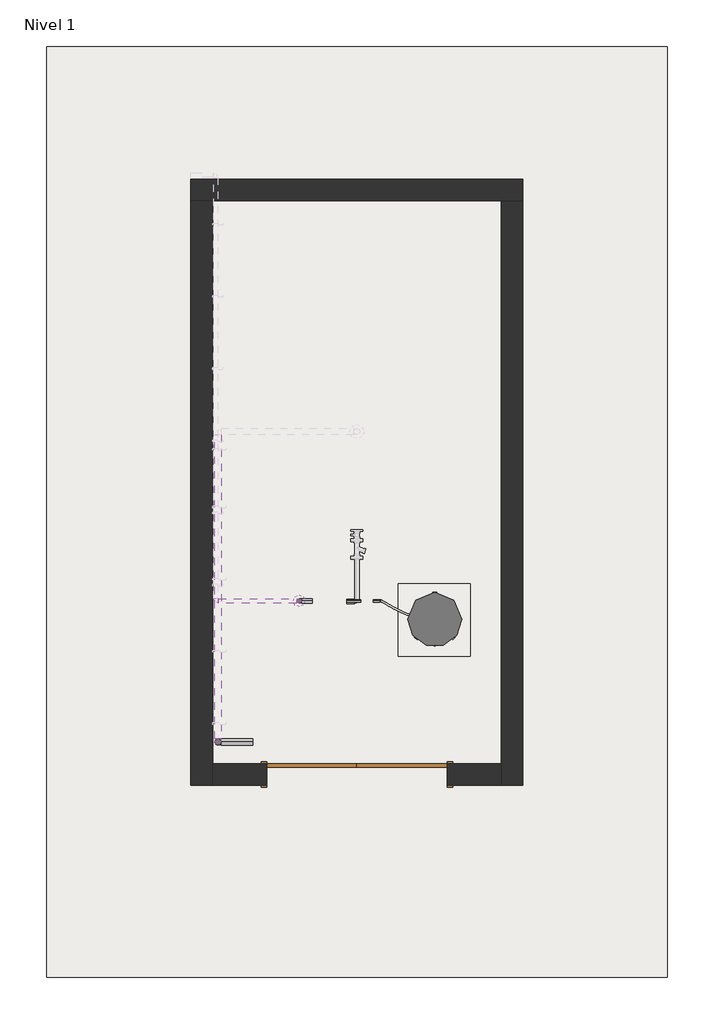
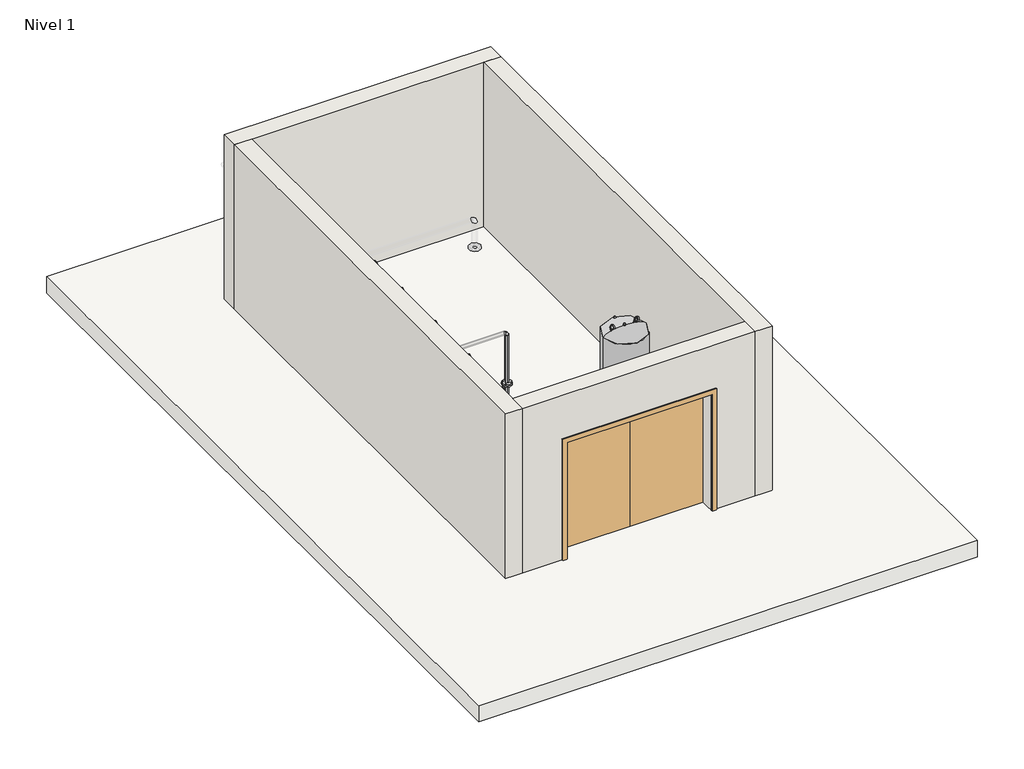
# One storey, part 1 of 2: 11 pipe segments, 9 pipe fittings, 4 walls, 2 slabs, 1 door, 1 proxy.
"""IFC4 building model written with IfcOpenShell, lengths in millimetres."""

from ifc_helpers import new_model, si_unit, point, frame, frame_2d, origin, origin_with_axes, place, context, project, spatial, polyline, circle_curve, trimmed, segment, composite_curve, outline, extrude, faceted_brep, transform, mapped, element, save
from components import proxy_01_ve_54f42642, door_2500x_2134mm_a108a5bc, pipe_fitting_c06ac706, pipe_fitting_3f4206e3, pipe_fitting_36ea70a5, brida_acero_dn_50_mm_4_tornillos_50_mm_0a0b1a1b

model = new_model("IFC4")

# Units and contexts
model_context = context("Model", 3, world=origin())
ifc_project = project(units=[si_unit("LENGTHUNIT", "METRE", prefix="MILLI")], contexts=[model_context])

# Site, building, storey
site = spatial("IfcSite", under=ifc_project)
building = spatial("IfcBuilding", under=site)
storey = spatial("IfcBuildingStorey", under=building, Name="Nivel 1", Elevation=0.0)

# Proxy
placement = place(None, origin())
proxy_01_ve_shape = proxy_01_ve_54f42642(model_context)
element("IfcBuildingElementProxy", 1, Name="VASO DE EXPANSIÓN 500 L : 01-VE", ObjectType="VASO DE EXPANSIÓN 500 L : 01-VE", at=placement, inside=storey, context=model_context, shape_type="MappedRepresentation", body=[
    mapped(proxy_01_ve_shape, transform((-146.867126, 2603.2271959, 600.0), x_axis=(1.0, 0.0, 0.0), y_axis=(0.0, 1.0, 0.0), z_axis=(0.0, 0.0, 1.0))),
])

# Door
door_2500x_2134mm_shape = door_2500x_2134mm_a108a5bc(model_context)
element("IfcDoor", 2, ObjectType="Puerta atamborada de 2 hojas : 2500x 2134mm", at=placement, inside=storey, context=model_context, shape_type="MappedRepresentation", body=[
    mapped(door_2500x_2134mm_shape, transform((-1226.867126, 453.2271959, 0.0), x_axis=(1.0, 0.0, 0.0), y_axis=(0.0, 1.0, 0.0), z_axis=(0.0, 0.0, 1.0))),
])

# Pipe fittings
pipe_fitting_shape = pipe_fitting_c06ac706(model_context)
element("IfcPipeFitting", 3, ObjectType="M_Codo - Genérico : Estándar", at=placement, inside=storey, context=model_context, shape_type="MappedRepresentation", body=[
    mapped(pipe_fitting_shape, transform((-886.867126, 2858.2242167, 394.0), x_axis=(1.0, 0.0, 0.0), y_axis=(0.0, 0.0, 1.0), z_axis=(0.0, -1.0, 0.0))),
])
pipe_fitting_2_shape = pipe_fitting_3f4206e3(model_context)
element("IfcPipeFitting", 4, ObjectType="M_Codo - Genérico : Estándar", at=placement, inside=storey, context=model_context, shape_type="MappedRepresentation", body=[
    mapped(pipe_fitting_2_shape, transform((-3151.867126, 903.2271959, 2780.0), x_axis=(0.0, -1.0, 0.0), y_axis=(0.0, 0.0, -1.0), z_axis=(1.0, 0.0, 0.0))),
])
element("IfcPipeFitting", 5, ObjectType="M_Codo - Genérico : Estándar", at=placement, inside=storey, context=model_context, shape_type="MappedRepresentation", body=[
    mapped(pipe_fitting_2_shape, transform((-3151.867126, 903.2271959, 1000.0), x_axis=(0.0, 0.0, -1.0), y_axis=(1.0, 0.0, 0.0), z_axis=(0.0, -1.0, 0.0))),
])
pipe_fitting_3_shape = pipe_fitting_36ea70a5(model_context)
element("IfcPipeFitting", 6, ObjectType="M_Codo - Genérico : Estándar", at=placement, inside=storey, context=model_context, shape_type="MappedRepresentation", body=[
    mapped(pipe_fitting_3_shape, transform((-1226.867126, 2848.2242167, 160.0), x_axis=(1.0, 0.0, 0.0), y_axis=(0.0, 1.0, 0.0), z_axis=(0.0, 0.0, 1.0))),
])
element("IfcPipeFitting", 7, ObjectType="M_Codo - Genérico : Estándar", at=placement, inside=storey, context=model_context, shape_type="MappedRepresentation", body=[
    mapped(pipe_fitting_3_shape, transform((-2026.867126, 2858.2242167, 394.0), x_axis=(-1.0, 0.0, 0.0), y_axis=(0.0, 0.0, 1.0), z_axis=(0.0, 1.0, 0.0))),
])
element("IfcPipeFitting", 8, ObjectType="M_Codo - Genérico : Estándar", at=placement, inside=storey, context=model_context, shape_type="MappedRepresentation", body=[
    mapped(pipe_fitting_3_shape, transform((-2026.867126, 2858.2242167, 2414.0), x_axis=(0.0, 0.0, 1.0), y_axis=(-1.0, 0.0, 0.0), z_axis=(0.0, -1.0, 0.0))),
])
element("IfcPipeFitting", 9, ObjectType="M_Codo - Genérico : Estándar", at=placement, inside=storey, context=model_context, shape_type="MappedRepresentation", body=[
    mapped(pipe_fitting_3_shape, transform((-3181.867126, 2858.2242167, 2414.0), x_axis=(0.0, -1.0, 0.0), y_axis=(1.0, 0.0, 0.0), z_axis=(0.0, 0.0, 1.0))),
])
brida_acero_dn_50_mm_4_tornillos_50_mm_shape = brida_acero_dn_50_mm_4_tornillos_50_mm_0a0b1a1b(model_context)
element("IfcPipeFitting", 10, ObjectType="BRIDA ACERO DN 50 mm 4 tornillos : 50 mm", at=placement, inside=storey, context=model_context, shape_type="MappedRepresentation", body=[
    mapped(brida_acero_dn_50_mm_4_tornillos_50_mm_shape, transform((-2026.867126, 2858.2242167, 1494.0), x_axis=(0.0, 0.0, -1.0), y_axis=(1.0, 0.0, 0.0), z_axis=(0.0, -1.0, 0.0))),
])
element("IfcPipeFitting", 11, ObjectType="BRIDA ACERO DN 50 mm 4 tornillos : 50 mm", at=placement, inside=storey, context=model_context, shape_type="MappedRepresentation", body=[
    mapped(brida_acero_dn_50_mm_4_tornillos_50_mm_shape, transform((-2026.867126, 2858.2242167, 1514.0), x_axis=(0.0, 0.0, -1.0), y_axis=(-1.0, 0.0, 0.0), z_axis=(0.0, 1.0, 0.0))),
])

# Pipe segments
element("IfcPipeSegment", 12, ObjectType="ACERO INOX", at=placement, inside=storey, context=model_context, shape_type="SweptSolid", body=[
    extrude(outline(composite_curve([segment(trimmed(circle_curve(frame_2d((2780.0, -3151.867126)), 44.45), [point((2780.0, -3196.317126))], [point((2735.55, -3151.867126))], False, "CARTESIAN"), True, "CONTINUOUS"), segment(trimmed(circle_curve(frame_2d((2780.0, -3151.867126)), 44.45), [point((2735.55, -3151.867126))], [point((2780.0, -3107.417126))], False, "CARTESIAN"), True, "CONTINUOUS"), segment(trimmed(circle_curve(frame_2d((2780.0, -3151.867126)), 44.45), [point((2780.0, -3107.417126))], [point((2824.45, -3151.867126))], False, "CARTESIAN"), True, "CONTINUOUS"), segment(trimmed(circle_curve(frame_2d((2780.0, -3151.867126)), 44.45), [point((2824.45, -3151.867126))], [point((2780.0, -3196.317126))], False, "CARTESIAN"), True, "CONTINUOUS")], self_intersect=False)), frame((0.0, 949.2646959, 0.0), z_axis=(0.0, 1.0, 0.0), x_axis=(0.0, 0.0, 1.0)), (0.0, 0.0, 1.0), 4207.925),
])
element("IfcPipeSegment", 13, ObjectType="ACERO INOX", at=placement, inside=storey, context=model_context, shape_type="SweptSolid", body=[
    extrude(outline(composite_curve([segment(trimmed(circle_curve(frame_2d((-3151.867126, 903.2271959)), 44.45), [point((-3107.417126, 903.2271959))], [point((-3151.867126, 858.7771959))], False, "CARTESIAN"), True, "CONTINUOUS"), segment(trimmed(circle_curve(frame_2d((-3151.867126, 903.2271959)), 44.45), [point((-3151.867126, 858.7771959))], [point((-3196.317126, 903.2271959))], False, "CARTESIAN"), True, "CONTINUOUS"), segment(trimmed(circle_curve(frame_2d((-3151.867126, 903.2271959)), 44.45), [point((-3196.317126, 903.2271959))], [point((-3151.867126, 947.6771959))], False, "CARTESIAN"), True, "CONTINUOUS"), segment(trimmed(circle_curve(frame_2d((-3151.867126, 903.2271959)), 44.45), [point((-3151.867126, 947.6771959))], [point((-3107.417126, 903.2271959))], False, "CARTESIAN"), True, "CONTINUOUS")], self_intersect=False)), frame((0.0, 0.0, 1046.0375), z_axis=(0.0, 0.0, 1.0), x_axis=(1.0, 0.0, 0.0)), (0.0, 0.0, 1.0), 1687.925),
])
element("IfcPipeSegment", 14, ObjectType="ACERO INOX", at=placement, inside=storey, context=model_context, shape_type="SweptSolid", body=[
    extrude(outline(composite_curve([segment(trimmed(circle_curve(frame_2d((903.2271959, 1000.0)), 44.45), [point((858.7771959, 1000.0))], [point((903.2271959, 1044.45))], False, "CARTESIAN"), True, "CONTINUOUS"), segment(trimmed(circle_curve(frame_2d((903.2271959, 1000.0)), 44.45), [point((903.2271959, 1044.45))], [point((947.6771959, 1000.0))], False, "CARTESIAN"), True, "CONTINUOUS"), segment(trimmed(circle_curve(frame_2d((903.2271959, 1000.0)), 44.45), [point((947.6771959, 1000.0))], [point((903.2271959, 955.55))], False, "CARTESIAN"), True, "CONTINUOUS"), segment(trimmed(circle_curve(frame_2d((903.2271959, 1000.0)), 44.45), [point((903.2271959, 955.55))], [point((858.7771959, 1000.0))], False, "CARTESIAN"), True, "CONTINUOUS")], self_intersect=False)), frame((-3105.829626, 0.0, 0.0), z_axis=(1.0, 0.0, 0.0), x_axis=(0.0, 1.0, 0.0)), (0.0, 0.0, 1.0), 438.9625),
])
element("IfcPipeSegment", 15, ObjectType="ACERO INOX", at=placement, inside=storey, context=model_context, shape_type="SweptSolid", body=[
    extrude(outline(composite_curve([segment(trimmed(circle_curve(frame_2d((2848.2242167, 160.0)), 30.1625), [point((2818.0617167, 160.0))], [point((2848.2242167, 190.1625))], False, "CARTESIAN"), True, "CONTINUOUS"), segment(trimmed(circle_curve(frame_2d((2848.2242167, 160.0)), 30.1625), [point((2848.2242167, 190.1625))], [point((2878.3867167, 160.0))], False, "CARTESIAN"), True, "CONTINUOUS"), segment(trimmed(circle_curve(frame_2d((2848.2242167, 160.0)), 30.1625), [point((2878.3867167, 160.0))], [point((2848.2242167, 129.8375))], False, "CARTESIAN"), True, "CONTINUOUS"), segment(trimmed(circle_curve(frame_2d((2848.2242167, 160.0)), 30.1625), [point((2848.2242167, 129.8375))], [point((2818.0617167, 160.0))], False, "CARTESIAN"), True, "CONTINUOUS")], self_intersect=False)), frame((-1366.867126, 0.0, 0.0), z_axis=(1.0, 0.0, 0.0), x_axis=(0.0, 1.0, 0.0)), (0.0, 0.0, 1.0), 106.6625),
])
element("IfcPipeSegment", 16, ObjectType="ACERO INOX", at=placement, inside=storey, context=model_context, shape_type="SweptSolid", body=[
    extrude(outline(composite_curve([segment(trimmed(circle_curve(frame_2d((2858.2242167, 394.0)), 30.1625), [point((2888.3867167, 394.0))], [point((2858.2242167, 363.8375))], False, "CARTESIAN"), True, "CONTINUOUS"), segment(trimmed(circle_curve(frame_2d((2858.2242167, 394.0)), 30.1625), [point((2858.2242167, 363.8375))], [point((2828.0617167, 394.0))], False, "CARTESIAN"), True, "CONTINUOUS"), segment(trimmed(circle_curve(frame_2d((2858.2242167, 394.0)), 30.1625), [point((2828.0617167, 394.0))], [point((2858.2242167, 424.1625))], False, "CARTESIAN"), True, "CONTINUOUS"), segment(trimmed(circle_curve(frame_2d((2858.2242167, 394.0)), 30.1625), [point((2858.2242167, 424.1625))], [point((2888.3867167, 394.0))], False, "CARTESIAN"), True, "CONTINUOUS")], self_intersect=False)), frame((-1993.529626, 0.0, 0.0), z_axis=(1.0, 0.0, 0.0), x_axis=(0.0, 1.0, 0.0)), (0.0, 0.0, 1.0), 146.6625),
])
element("IfcPipeSegment", 17, ObjectType="ACERO INOX", at=placement, inside=storey, context=model_context, shape_type="SweptSolid", body=[
    extrude(outline(composite_curve([segment(trimmed(circle_curve(frame_2d((-2026.867126, 2858.2242167)), 30.1625), [point((-2057.029626, 2858.2242167))], [point((-2026.867126, 2888.3867167))], False, "CARTESIAN"), True, "CONTINUOUS"), segment(trimmed(circle_curve(frame_2d((-2026.867126, 2858.2242167)), 30.1625), [point((-2026.867126, 2888.3867167))], [point((-1996.704626, 2858.2242167))], False, "CARTESIAN"), True, "CONTINUOUS"), segment(trimmed(circle_curve(frame_2d((-2026.867126, 2858.2242167)), 30.1625), [point((-1996.704626, 2858.2242167))], [point((-2026.867126, 2828.0617167))], False, "CARTESIAN"), True, "CONTINUOUS"), segment(trimmed(circle_curve(frame_2d((-2026.867126, 2858.2242167)), 30.1625), [point((-2026.867126, 2828.0617167))], [point((-2057.029626, 2858.2242167))], False, "CARTESIAN"), True, "CONTINUOUS")], self_intersect=False)), frame((0.0, 0.0, 427.3375), z_axis=(0.0, 0.0, 1.0), x_axis=(1.0, 0.0, 0.0)), (0.0, 0.0, 1.0), 1046.6625),
])
element("IfcPipeSegment", 18, ObjectType="ACERO INOX", at=placement, inside=storey, context=model_context, shape_type="SweptSolid", body=[
    extrude(outline(composite_curve([segment(trimmed(circle_curve(frame_2d((-2026.867126, 2858.2242167)), 30.1625), [point((-2057.029626, 2858.2242167))], [point((-2026.867126, 2888.3867167))], False, "CARTESIAN"), True, "CONTINUOUS"), segment(trimmed(circle_curve(frame_2d((-2026.867126, 2858.2242167)), 30.1625), [point((-2026.867126, 2888.3867167))], [point((-1996.704626, 2858.2242167))], False, "CARTESIAN"), True, "CONTINUOUS"), segment(trimmed(circle_curve(frame_2d((-2026.867126, 2858.2242167)), 30.1625), [point((-1996.704626, 2858.2242167))], [point((-2026.867126, 2828.0617167))], False, "CARTESIAN"), True, "CONTINUOUS"), segment(trimmed(circle_curve(frame_2d((-2026.867126, 2858.2242167)), 30.1625), [point((-2026.867126, 2828.0617167))], [point((-2057.029626, 2858.2242167))], False, "CARTESIAN"), True, "CONTINUOUS")], self_intersect=False)), frame((0.0, 0.0, 1514.0), z_axis=(0.0, 0.0, 1.0), x_axis=(1.0, 0.0, 0.0)), (0.0, 0.0, 1.0), 866.6625),
])
element("IfcPipeSegment", 19, ObjectType="ACERO INOX", at=placement, inside=storey, context=model_context, shape_type="SweptSolid", body=[
    extrude(outline(composite_curve([segment(trimmed(circle_curve(frame_2d((2858.2242167, 2414.0)), 30.1625), [point((2888.3867167, 2414.0))], [point((2858.2242167, 2383.8375))], False, "CARTESIAN"), True, "CONTINUOUS"), segment(trimmed(circle_curve(frame_2d((2858.2242167, 2414.0)), 30.1625), [point((2858.2242167, 2383.8375))], [point((2828.0617167, 2414.0))], False, "CARTESIAN"), True, "CONTINUOUS"), segment(trimmed(circle_curve(frame_2d((2858.2242167, 2414.0)), 30.1625), [point((2828.0617167, 2414.0))], [point((2858.2242167, 2444.1625))], False, "CARTESIAN"), True, "CONTINUOUS"), segment(trimmed(circle_curve(frame_2d((2858.2242167, 2414.0)), 30.1625), [point((2858.2242167, 2444.1625))], [point((2888.3867167, 2414.0))], False, "CARTESIAN"), True, "CONTINUOUS")], self_intersect=False)), frame((-3148.529626, 0.0, 0.0), z_axis=(1.0, 0.0, 0.0), x_axis=(0.0, 1.0, 0.0)), (0.0, 0.0, 1.0), 1088.325),
])
element("IfcPipeSegment", 20, ObjectType="ACERO INOX", at=placement, inside=storey, context=model_context, shape_type="SweptSolid", body=[
    extrude(outline(composite_curve([segment(trimmed(circle_curve(frame_2d((2858.2242167, 394.0)), 16.7005), [point((2841.5237167, 394.0))], [point((2858.2242167, 410.7005))], False, "CARTESIAN"), True, "CONTINUOUS"), segment(trimmed(circle_curve(frame_2d((2858.2242167, 394.0)), 16.7005), [point((2858.2242167, 410.7005))], [point((2874.9247167, 394.0))], False, "CARTESIAN"), True, "CONTINUOUS"), segment(trimmed(circle_curve(frame_2d((2858.2242167, 394.0)), 16.7005), [point((2874.9247167, 394.0))], [point((2858.2242167, 377.2995))], False, "CARTESIAN"), True, "CONTINUOUS"), segment(trimmed(circle_curve(frame_2d((2858.2242167, 394.0)), 16.7005), [point((2858.2242167, 377.2995))], [point((2841.5237167, 394.0))], False, "CARTESIAN"), True, "CONTINUOUS")], self_intersect=False)), frame((-997.867126, 0.0, 0.0), z_axis=(1.0, 0.0, 0.0), x_axis=(0.0, 1.0, 0.0)), (0.0, 0.0, 1.0), 90.3625),
])
element("IfcPipeSegment", 21, ObjectType="ACERO INOX", at=placement, inside=storey, context=model_context, shape_type="SweptSolid", body=[
    extrude(outline(composite_curve([segment(trimmed(circle_curve(frame_2d((-886.867126, 2858.2242167)), 16.7005), [point((-903.567626, 2858.2242167))], [point((-886.867126, 2874.9247167))], False, "CARTESIAN"), True, "CONTINUOUS"), segment(trimmed(circle_curve(frame_2d((-886.867126, 2858.2242167)), 16.7005), [point((-886.867126, 2874.9247167))], [point((-870.166626, 2858.2242167))], False, "CARTESIAN"), True, "CONTINUOUS"), segment(trimmed(circle_curve(frame_2d((-886.867126, 2858.2242167)), 16.7005), [point((-870.166626, 2858.2242167))], [point((-886.867126, 2841.5237167))], False, "CARTESIAN"), True, "CONTINUOUS"), segment(trimmed(circle_curve(frame_2d((-886.867126, 2858.2242167)), 16.7005), [point((-886.867126, 2841.5237167))], [point((-903.567626, 2858.2242167))], False, "CARTESIAN"), True, "CONTINUOUS")], self_intersect=False)), frame((0.0, 0.0, 414.6375), z_axis=(0.0, 0.0, 1.0), x_axis=(1.0, 0.0, 0.0)), (0.0, 0.0, 1.0), 159.3625),
])
element("IfcPipeSegment", 22, ObjectType="ACERO INOX", at=placement, inside=storey, context=model_context, shape_type="SweptSolid", body=[
    extrude(outline(composite_curve([segment(trimmed(circle_curve(frame_2d((2858.2242167, 394.0)), 16.7005), [point((2841.5237167, 394.0))], [point((2858.2242167, 410.7005))], False, "CARTESIAN"), True, "CONTINUOUS"), segment(trimmed(circle_curve(frame_2d((2858.2242167, 394.0)), 16.7005), [point((2858.2242167, 410.7005))], [point((2874.9247167, 394.0))], False, "CARTESIAN"), True, "CONTINUOUS"), segment(trimmed(circle_curve(frame_2d((2858.2242167, 394.0)), 16.7005), [point((2874.9247167, 394.0))], [point((2858.2242167, 377.2995))], False, "CARTESIAN"), True, "CONTINUOUS"), segment(trimmed(circle_curve(frame_2d((2858.2242167, 394.0)), 16.7005), [point((2858.2242167, 377.2995))], [point((2841.5237167, 394.0))], False, "CARTESIAN"), True, "CONTINUOUS")], self_intersect=False)), frame((-1366.867126, 0.0, 0.0), z_axis=(1.0, 0.0, 0.0), x_axis=(0.0, 1.0, 0.0)), (0.0, 0.0, 1.0), 191.0),
])

# Slabs
element("IfcSlab", 23, ObjectType="Genérico 300 mm", at=placement, inside=storey, context=model_context, shape_type="SweptSolid", body=[
    extrude(outline(polyline([(3073.132874, 10540.2228482), (3073.132874, -2359.7771518), (-5526.867126, -2359.7771518), (-5526.867126, 10540.2228482), (3073.132874, 10540.2228482)])), frame((0.0, 0.0, -300.0), z_axis=(0.0, 0.0, 1.0), x_axis=(1.0, 0.0, 0.0)), (0.0, 0.0, 1.0), 300.0),
])
element("IfcSlab", 24, ObjectType="Genérico 600 mm", at=placement, inside=storey, context=model_context, shape_type="SweptSolid", body=[
    extrude(outline(polyline([(345.8353741, 3094.4053337), (345.8353741, 2094.4053337), (-654.1646259, 2094.4053337), (-654.1646259, 3094.4053337), (345.8353741, 3094.4053337)])), origin_with_axes(), (0.0, 0.0, 1.0), 600.0),
])

# Walls
element("IfcWall", 25, ObjectType="Genérico - 300 mm", at=placement, inside=storey, context=model_context, shape_type="Brep", body=[
    faceted_brep([(-3526.867126, 8403.2271959, 0.0), (-3226.867126, 8403.2271959, 0.0), (773.132874, 8403.2271959, 0.0), (1073.132874, 8403.2271959, 0.0), (1073.132874, 8403.2271959, 3000.0), (773.132874, 8403.2271959, 3000.0), (-3226.867126, 8403.2271959, 3000.0), (-3526.867126, 8403.2271959, 3000.0), (-3526.867126, 8703.2271959, 0.0), (-3526.867126, 8703.2271959, 3000.0), (1073.132874, 8703.2271959, 3000.0), (1073.132874, 8703.2271959, 0.0)], [[[0, 1, 2, 3, 4, 5, 6, 7]], [[8, 9, 10, 11]], [[3, 2, 1, 0, 8, 11]], [[7, 6, 5, 4, 10, 9]], [[4, 3, 11, 10]], [[0, 7, 9, 8]]]),
])
element("IfcWall", 26, ObjectType="Genérico - 300 mm", at=placement, inside=storey, context=model_context, shape_type="Brep", body=[
    faceted_brep([(773.132874, 8403.2271959, 0.0), (773.132874, 603.2271959, 0.0), (773.132874, 303.2271959, 0.0), (773.132874, 303.2271959, 3000.0), (773.132874, 603.2271959, 3000.0), (773.132874, 8403.2271959, 3000.0), (1073.132874, 8403.2271959, 0.0), (1073.132874, 8403.2271959, 3000.0), (1073.132874, 303.2271959, 3000.0), (1073.132874, 303.2271959, 0.0)], [[[0, 1, 2, 3, 4, 5]], [[6, 7, 8, 9]], [[2, 1, 0, 6, 9]], [[5, 4, 3, 8, 7]], [[0, 5, 7, 6]], [[3, 2, 9, 8]]]),
])
element("IfcWall", 27, ObjectType="Genérico - 300 mm", at=placement, inside=storey, context=model_context, shape_type="Brep", body=[
    faceted_brep([(-3526.867126, 8403.2271959, 0.0), (-3526.867126, 303.2271959, 0.0), (-3526.867126, 303.2271959, 3000.0), (-3526.867126, 8403.2271959, 3000.0), (-3226.867126, 8403.2271959, 0.0), (-3226.867126, 8403.2271959, 3000.0), (-3226.867126, 603.2271959, 3000.0), (-3226.867126, 303.2271959, 3000.0), (-3226.867126, 303.2271959, 0.0), (-3226.867126, 603.2271959, 0.0)], [[[0, 1, 2, 3]], [[4, 5, 6, 7, 8, 9]], [[1, 0, 4, 9, 8]], [[3, 2, 7, 6, 5]], [[0, 3, 5, 4]], [[2, 1, 8, 7]]]),
])
element("IfcWall", 28, ObjectType="Genérico - 300 mm", at=placement, inside=storey, context=model_context, shape_type="SweptSolid", body=[
    extrude(outline(polyline([(3000.0, 773.132874), (3000.0, -3226.867126), (0.0, -3226.867126), (0.0, -2476.867126), (2134.0, -2476.867126), (2134.0, 23.132874), (0.0, 23.132874), (0.0, 773.132874), (3000.0, 773.132874)])), frame((0.0, 303.2271959, 0.0), z_axis=(0.0, 1.0, 0.0), x_axis=(0.0, 0.0, 1.0)), (0.0, 0.0, 1.0), 300.0),
])

save(model, "model.ifc")
